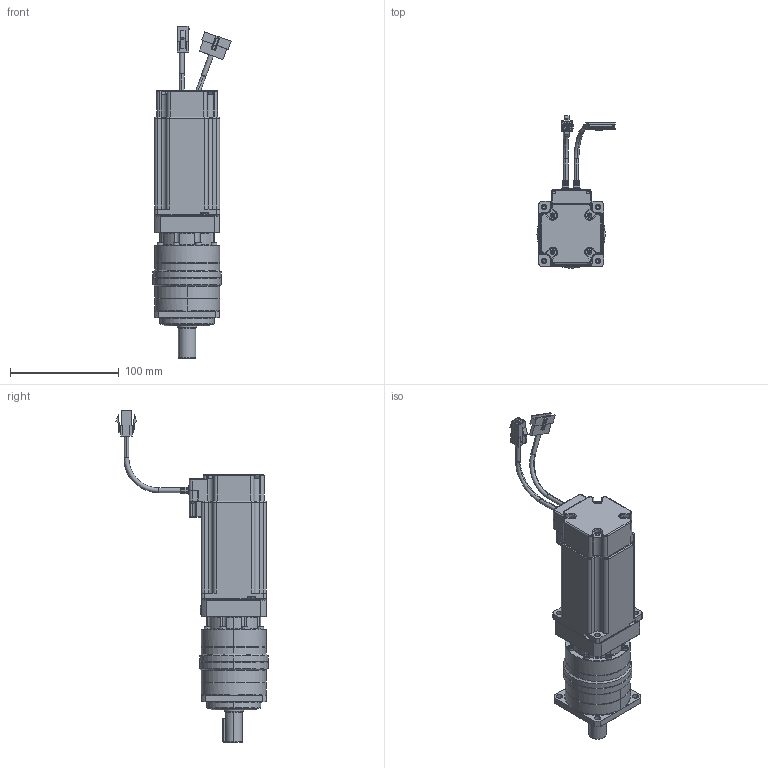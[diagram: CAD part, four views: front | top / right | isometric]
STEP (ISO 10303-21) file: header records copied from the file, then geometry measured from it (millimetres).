
FILE_DESCRIPTION (( 'STEP AP203' ), '1' );
FILE_NAME ('130416 Ezi-SERVO PG-ST-60L-PN15~50.STEP', '2013-04-16T08:31:59', ( '' ), ( '' ), 'SwSTEP 2.0', 'SolidWorks 2012', '' );
FILE_SCHEMA (( 'CONFIG_CONTROL_DESIGN' ));
Length unit declared in the file: metre
Products named in the file (15): 130416 Ezi-SERVO PG-ST-60L-PN15~50; ST56 2ST; MainEzM-60L-assembly-1; MainM3-screw12-1; MainM3-screw11-1; MainM3-screw10-1; MainM3-screw9-1; MainM3-screw8-1; MainM3-screw7-1; Main60_Encoder_Plate-1; MainEZSV_60_Encoder_Cover-1; MainEZSV_60_Cable_Cover-1; MainEncoder_Cable_60-1; MainPower_Cable_60-1; MainEzM-60L-1
Assembly tree (14 placements, depth 3):
  130416 Ezi-SERVO PG-ST-60L-PN15~50
    MainEzM-60L-assembly-1
      MainEzM-60L-1
      MainPower_Cable_60-1
      MainEncoder_Cable_60-1
      MainEZSV_60_Cable_Cover-1
      MainEZSV_60_Encoder_Cover-1
      Main60_Encoder_Plate-1
      MainM3-screw7-1
      MainM3-screw8-1
      MainM3-screw9-1
      MainM3-screw10-1
      MainM3-screw11-1
      MainM3-screw12-1
    ST56 2ST
Bounding box: 71.99 x 140.14 x 306 mm (x, y, z)
Volume: 599096.9 mm3; surface area: 102262.6 mm2
Topology: 13 solids, 13 shells, 1509 faces, 3963 edges, 2515 vertices
Faces by surface type: plane 735, cylinder 501, cone 131, torus 61, bspline 57, sphere 24
Entity records: 51599 total; most frequent: CARTESIAN_POINT 13451, ORIENTED_EDGE 7726, DIRECTION 7538, EDGE_CURVE 3863, AXIS2_PLACEMENT_3D 2760, VERTEX_POINT 2495, VECTOR 2018, LINE 2018
